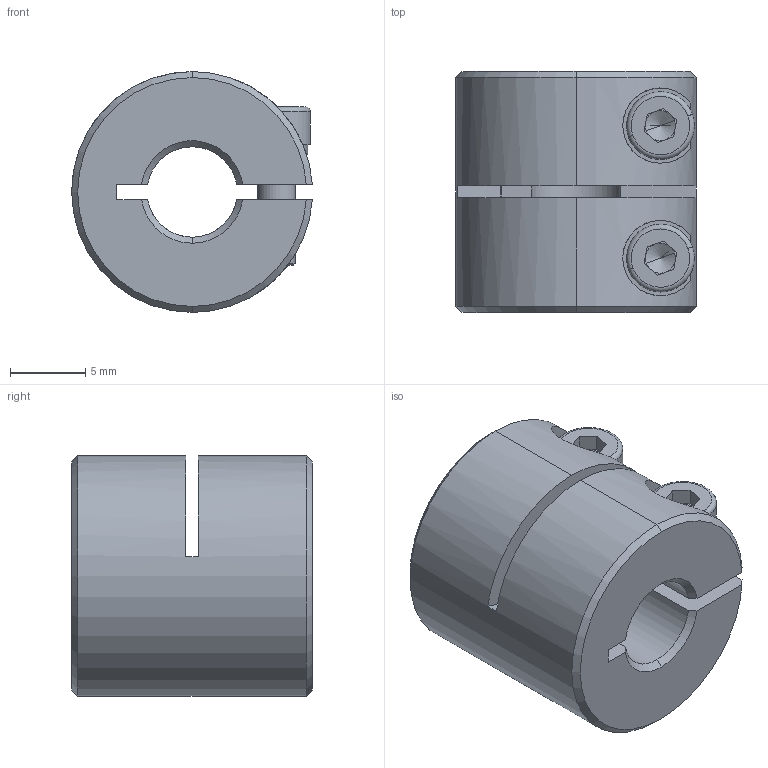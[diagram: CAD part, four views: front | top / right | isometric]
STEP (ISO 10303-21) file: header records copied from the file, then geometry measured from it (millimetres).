
FILE_DESCRIPTION (( 'STEP AP203' ), '1' );
FILE_NAME ('LL-B-D16L16-6-6.STEP', '2021-11-03T02:44:20', ( '' ), ( '' ), 'SwSTEP 2.0', 'SolidWorks 2018', '' );
FILE_SCHEMA (( 'CONFIG_CONTROL_DESIGN' ));
Length unit declared in the file: millimetre
Products named in the file (1): LL-B-D16L16-6-6
Bounding box: 15.98 x 16 x 16 mm (x, y, z)
Volume: 2544 mm3; surface area: 2004.6 mm2
Topology: 1 solids, 1 shells, 116 faces, 299 edges, 187 vertices
Faces by surface type: plane 50, cylinder 42, cone 20, torus 4
Entity records: 3787 total; most frequent: CARTESIAN_POINT 851, DIRECTION 624, ORIENTED_EDGE 590, EDGE_CURVE 295, AXIS2_PLACEMENT_3D 244, VERTEX_POINT 187, LINE 136, VECTOR 136
